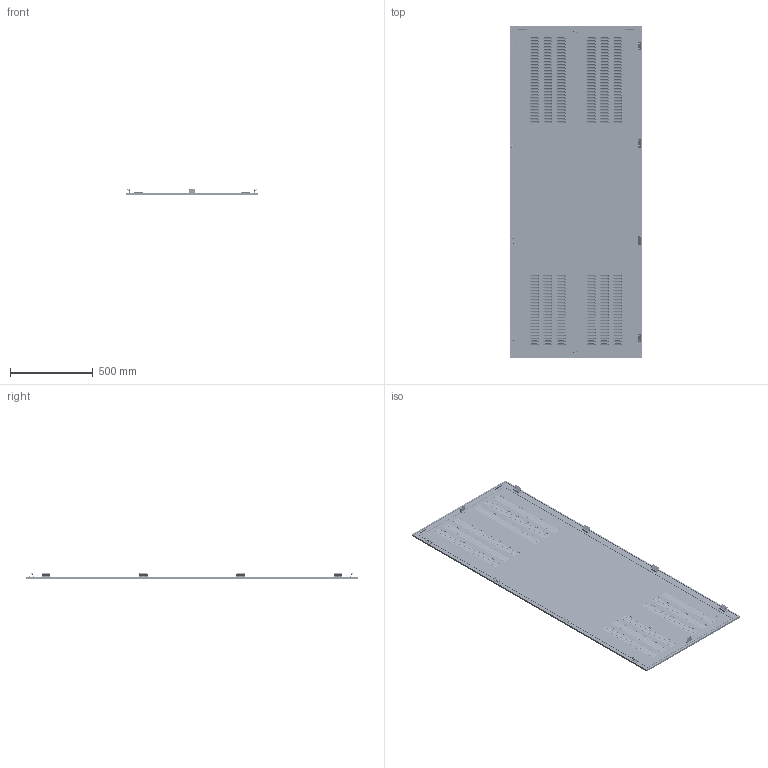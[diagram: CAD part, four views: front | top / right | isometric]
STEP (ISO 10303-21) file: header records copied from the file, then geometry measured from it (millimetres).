
FILE_DESCRIPTION (( 'STEP AP214' ), '1' );
FILE_NAME ('FO-00-PBV-200-080 Ïàíåëü çàäíÿÿ âåíòèëèðóåìàÿ 2000õ800 ìì.STEP', '2025-08-04T11:47:41', ( '' ), ( '' ), 'SwSTEP 2.0', 'SolidWorks 2023', '' );
FILE_SCHEMA (( 'AUTOMOTIVE_DESIGN' ));
Products named in the file (1): FO-00-PBV-200-080 Панель задняя вентилируемая 2000х800 мм
Bounding box: 795 x 2000 x 41.43 mm (x, y, z)
Volume: 2668231.2 mm3; surface area: 3587049.2 mm2
Topology: 1 solids, 1 shells, 6846 faces, 18036 edges, 11268 vertices
Faces by surface type: plane 2387, cylinder 2280, torus 1928, cone 240, bspline 11
Entity records: 215750 total; most frequent: DIRECTION 41673, CARTESIAN_POINT 36914, ORIENTED_EDGE 36072, EDGE_CURVE 18036, AXIS2_PLACEMENT_3D 16856, VERTEX_POINT 11268, CIRCLE 10020, VECTOR 7961
